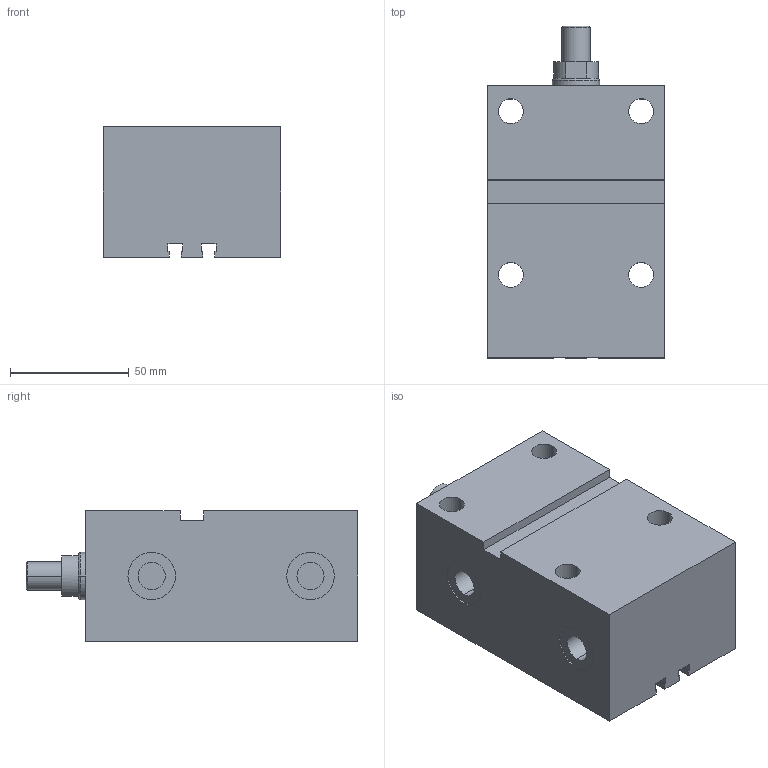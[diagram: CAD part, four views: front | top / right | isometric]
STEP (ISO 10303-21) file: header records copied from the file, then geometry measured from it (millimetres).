
FILE_DESCRIPTION (( 'STEP AP203' ), '1' );
FILE_NAME ('GERMA_Blockzylinder_701-032-050-A.STEP', '2016-07-23T08:32:06', ( '' ), ( '' ), 'SwSTEP 2.0', 'SolidWorks 2015', '' );
FILE_SCHEMA (( 'CONFIG_CONTROL_DESIGN' ));
Length unit declared in the file: millimetre
Products named in the file (3): GERMA_Blockzylinder_701-032-050-A; GH-700-032_GH-701-032-050; Kolben_MT 70x-032_Kolben_MT DU.32-Hub50-AG
Assembly tree (2 placements, depth 2):
  GERMA_Blockzylinder_701-032-050-A
    GH-700-032_GH-701-032-050
    Kolben_MT 70x-032_Kolben_MT DU.32-Hub50-AG
Bounding box: 75 x 140 x 55 mm (x, y, z)
Volume: 421233.6 mm3; surface area: 68875.4 mm2
Topology: 2 solids, 2 shells, 92 faces, 216 edges, 137 vertices
Faces by surface type: plane 43, cylinder 37, cone 12
Entity records: 2938 total; most frequent: DIRECTION 491, CARTESIAN_POINT 446, ORIENTED_EDGE 424, EDGE_CURVE 212, AXIS2_PLACEMENT_3D 182, VERTEX_POINT 137, LINE 127, VECTOR 127
